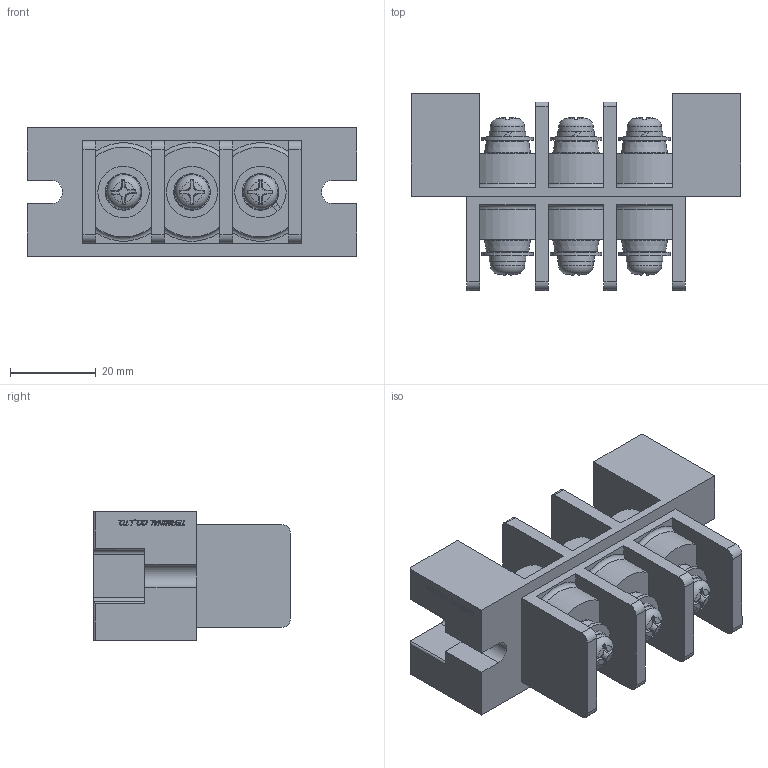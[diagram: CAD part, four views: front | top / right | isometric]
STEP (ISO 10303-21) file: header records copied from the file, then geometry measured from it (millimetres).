
FILE_DESCRIPTION(/* description */ ('Alibre Inc.'),/* implementation_level */ '2;1');
FILE_NAME(/* name */ 'export0',/* time_stamp */ '2016-01-14T19:31:38+09:00',/* author */ (''),/* organization */ (''),/* preprocessor_version */ 'ST-DEVELOPER v14',/* originating_system */ 'Alibre',/* authorisation */ '');
FILE_SCHEMA (('CONFIG_CONTROL_DESIGN'));
Length unit declared in the file: centimetre
Products named in the file (1): ID_1
Bounding box: 77 x 46 x 30 mm (x, y, z)
Volume: 48068.6 mm3; surface area: 19633.6 mm2
Topology: 1 solids, 10 shells, 561 faces, 1485 edges, 979 vertices
Faces by surface type: plane 328, cylinder 91, bspline 52, cone 48, sphere 24, torus 18
Full cylindrical faces by diameter (mm): 4.55 x2, 5 x9, 8 x6, 10.75 x6, 12 x6
Entity records: 17159 total; most frequent: CARTESIAN_POINT 4558, ORIENTED_EDGE 2802, DIRECTION 2015, EDGE_CURVE 1401, VERTEX_POINT 954, VECTOR 811, LINE 811, AXIS2_PLACEMENT_3D 763
